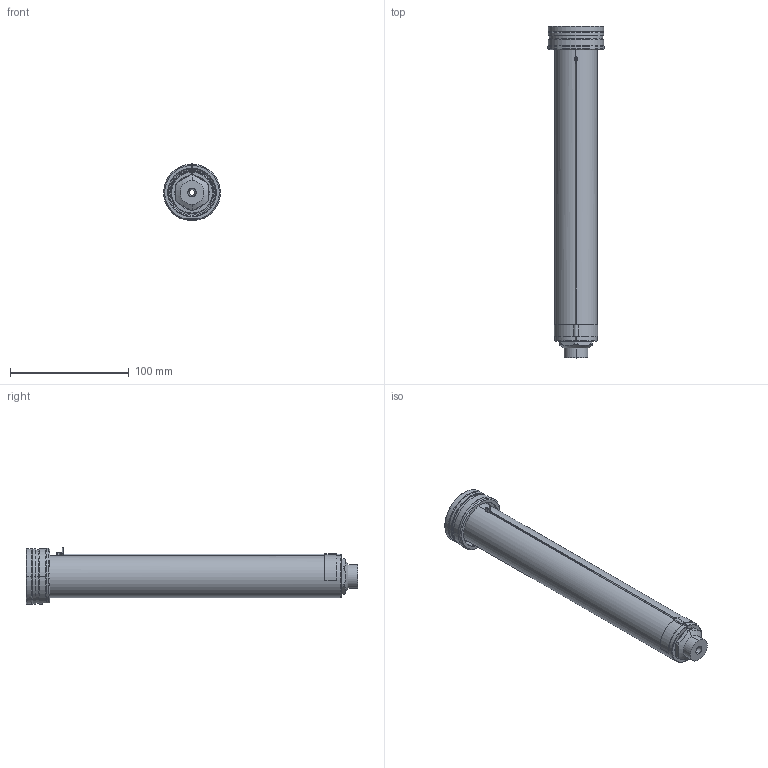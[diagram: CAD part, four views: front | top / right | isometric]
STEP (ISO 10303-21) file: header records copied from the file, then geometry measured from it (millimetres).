
FILE_DESCRIPTION((''),'2;1');
FILE_NAME('EO16_VG-ST_STD_260_SW','2024-02-19T12:56:19',('sundharh'),(''),'CREO PARAMETRIC BY PTC INC, 2023154','CREO PARAMETRIC BY PTC INC, 2023154','');
FILE_SCHEMA(('CONFIG_CONTROL_DESIGN'));
Length unit declared in the file: millimetre
Products named in the file (1): EO16_VG-ST_STD_260_SW
Bounding box: 47.97 x 280 x 48 mm (x, y, z)
Volume: 227855.4 mm3; surface area: 52981.1 mm2
Topology: 1 solids, 1 shells, 169 faces, 418 edges, 256 vertices
Faces by surface type: cylinder 64, plane 45, cone 35, torus 14, bspline 9, sphere 2
Entity records: 5889 total; most frequent: CARTESIAN_POINT 1803, DIRECTION 906, ORIENTED_EDGE 824, EDGE_CURVE 412, AXIS2_PLACEMENT_3D 374, VERTEX_POINT 256, CIRCLE 214, EDGE_LOOP 184
